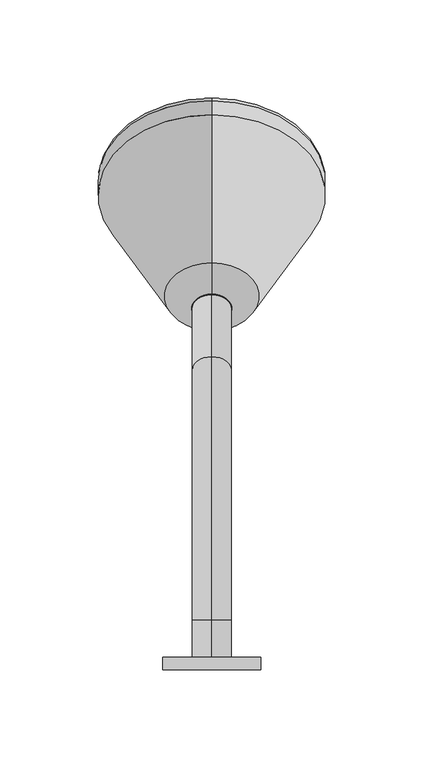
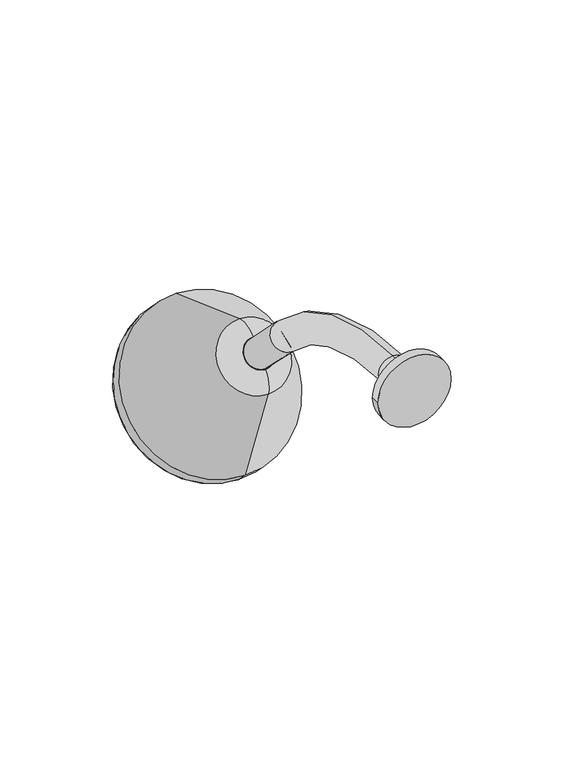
"""IFC4 building model written with IfcOpenShell, lengths in millimetres: flow terminal geometry, Regadera : Accesorios_baño."""

from ifc_helpers import new_model, si_unit, point, frame, frame_2d, origin, place, context, project, spatial, polyline, circle_curve, ellipse_curve, trimmed, segment, composite_curve, outline, extrude, source, transform, mapped, element, save
from ifc_brep_helpers import plane_surface, cylinder_surface, revolved_surface, advanced_brep


def flow_terminal_52aebef2(model_context):
    return source(origin(), model_context, "Body", "SolidModel", [
        extrude(outline(composite_curve([segment(trimmed(circle_curve(frame_2d((1900.0, 125.0)), 25.0), [point((1900.0, 100.0))], [point((1900.0, 150.0))], False, "CARTESIAN"), True, "CONTINUOUS"), segment(trimmed(circle_curve(frame_2d((1900.0, 125.0)), 25.0), [point((1900.0, 150.0))], [point((1900.0, 100.0))], False, "CARTESIAN"), True, "CONTINUOUS")], self_intersect=False)), frame((0.0, 10.0, 0.0), z_axis=(0.0, 1.0, 0.0), x_axis=(0.0, 0.0, 1.0)), (0.0, 0.0, 1.0), 6.4821489),
        advanced_brep(
        [(125.0, 217.6624735, 1826.3331882), (125.0, 183.6668118, 1792.3375265), (125.0, 187.1555994, 1808.0744304), (125.0, 201.9255696, 1822.8444006), (125.0, 293.255056, 1798.8197382), (125.0, 211.1802618, 1716.744944), (125.0, 300.3261238, 1791.7486704), (125.0, 218.2513296, 1709.6738762), (125.0, 300.3261238, 1784.6776026), (125.0, 225.3223974, 1709.6738762), (125.0, 298.6229509, 1782.9744296), (125.0, 227.0255704, 1711.3770491), (125.0, 297.2087373, 1784.3886432), (125.0, 225.6113568, 1712.7912627), (125.0, 261.4100471, 1748.5899529), (125.0, 194.5405845, 1815.4594155)],
        [
            (0, 1, circle_curve(frame((125.0, 200.6646427, 1809.3353573), z_axis=(0.0, -0.7071067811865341, 0.707106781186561), x_axis=(0.0, -0.707106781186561, -0.7071067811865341)), 24.0385629)),
            (1, 2, circle_curve(frame((125.0, 197.7622012, 1797.4678286), z_axis=(-1.0000000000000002, 0.0, 0.0), x_axis=(0.0, 1.0000000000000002, 0.0)), 15.0)),
            (2, 3, circle_curve(frame((125.0, 194.5405845, 1815.4594155), z_axis=(0.0, 0.7071067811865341, -0.707106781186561), x_axis=(0.0, -0.707106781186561, -0.7071067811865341)), 10.4439461)),
            (3, 0, circle_curve(frame((125.0, 212.5321714, 1812.2377988), z_axis=(-1.0000000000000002, 0.0, 0.0), x_axis=(0.0, 0.0, -1.0000000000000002)), 15.0)),
            (1, 0, circle_curve(frame((125.0, 200.6646427, 1809.3353573), z_axis=(0.0, -0.7071067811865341, 0.707106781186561), x_axis=(0.0, -0.707106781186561, -0.7071067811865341)), 24.0385629)),
            (3, 2, circle_curve(frame((125.0, 194.5405845, 1815.4594155), z_axis=(0.0, 0.7071067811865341, -0.707106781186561), x_axis=(0.0, -0.707106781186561, -0.7071067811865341)), 10.4439461)),
            (4, 5, circle_curve(frame((125.0, 252.2176589, 1757.7823411), z_axis=(0.0, -0.7071067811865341, 0.707106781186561), x_axis=(0.0, -0.707106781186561, -0.7071067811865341)), 58.0356436)),
            (5, 1),
            (0, 4),
            (5, 4, circle_curve(frame((125.0, 252.2176589, 1757.7823411), z_axis=(0.0, -0.7071067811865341, 0.707106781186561), x_axis=(0.0, -0.707106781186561, -0.7071067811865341)), 58.0356436)),
            (6, 7, circle_curve(frame((125.0, 259.2887267, 1750.7112733), z_axis=(0.0, -0.7071067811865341, 0.707106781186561), x_axis=(0.0, -0.707106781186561, -0.7071067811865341)), 58.0356436)),
            (7, 5),
            (4, 6),
            (7, 6, circle_curve(frame((125.0, 259.2887267, 1750.7112733), z_axis=(0.0, -0.7071067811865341, 0.707106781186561), x_axis=(0.0, -0.707106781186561, -0.7071067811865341)), 58.0356436)),
            (8, 9, circle_curve(frame((125.0, 262.8242606, 1747.1757394), z_axis=(0.0, -0.7071067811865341, 0.707106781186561), x_axis=(0.0, -0.707106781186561, -0.7071067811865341)), 53.0356436)),
            (9, 7, circle_curve(frame((125.0, 221.7868635, 1713.2094101), z_axis=(-1.0000000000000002, 0.0, 0.0), x_axis=(0.0, 1.0000000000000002, 0.0)), 5.0)),
            (6, 8, circle_curve(frame((125.0, 296.7905899, 1788.2131365), z_axis=(-1.0000000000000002, 0.0, 0.0), x_axis=(0.0, 0.0, -1.0000000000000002)), 5.0)),
            (9, 8, circle_curve(frame((125.0, 262.8242606, 1747.1757394), z_axis=(0.0, -0.7071067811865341, 0.707106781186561), x_axis=(0.0, -0.707106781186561, -0.7071067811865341)), 53.0356436)),
            (10, 11, circle_curve(frame((125.0, 262.8242606, 1747.1757394), z_axis=(0.0, -0.7071067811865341, 0.707106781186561), x_axis=(0.0, -0.707106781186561, -0.7071067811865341)), 50.6269933)),
            (11, 9),
            (8, 10),
            (11, 10, circle_curve(frame((125.0, 262.8242606, 1747.1757394), z_axis=(0.0, -0.7071067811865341, 0.707106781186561), x_axis=(0.0, -0.707106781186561, -0.7071067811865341)), 50.6269933)),
            (12, 13, circle_curve(frame((125.0, 261.4100471, 1748.5899529), z_axis=(0.0, -0.7071067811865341, 0.707106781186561), x_axis=(0.0, -0.707106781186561, -0.7071067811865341)), 50.6269933)),
            (13, 11),
            (10, 12),
            (13, 12, circle_curve(frame((125.0, 261.4100471, 1748.5899529), z_axis=(0.0, -0.7071067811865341, 0.707106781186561), x_axis=(0.0, -0.707106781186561, -0.7071067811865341)), 50.6269933)),
            (14, 13),
            (12, 14),
            (2, 15),
            (15, 3),
        ],
        [
            revolved_surface(trimmed(ellipse_curve(frame((125.0, 197.7622012, 1797.4678286), z_axis=(1.0000000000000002, 0.0, 0.0), x_axis=(0.0, 1.0000000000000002, 0.0)), 15.0, 15.0), [point((125.0, 187.1555994, 1808.0744304))], [point((125.0, 183.6668118, 1792.3375265))], True, "CARTESIAN"), (125.0, 194.5405845, 1815.4594155), (0.0, 0.7071067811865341, -0.707106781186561)),
            revolved_surface(polyline([(125.0, 183.6668118, 1792.3375265), (125.0, 211.1802618, 1716.744944)]), (125.0, 194.5405845, 1815.4594155), (0.0, 0.7071067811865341, -0.707106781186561)),
            cylinder_surface(frame((125.0, 194.5405845, 1815.4594155), z_axis=(0.0, 0.7071067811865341, -0.707106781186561), x_axis=(0.0, -0.707106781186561, -0.7071067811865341)), 58.0356436),
            revolved_surface(trimmed(ellipse_curve(frame((125.0, 221.7868635, 1713.2094101), z_axis=(1.0000000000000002, 0.0, 0.0), x_axis=(0.0, 1.0000000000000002, 0.0)), 5.0, 5.0), [point((125.0, 218.2513296, 1709.6738762))], [point((125.0, 225.3223974, 1709.6738762))], True, "CARTESIAN"), (125.0, 194.5405845, 1815.4594155), (0.0, 0.7071067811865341, -0.707106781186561)),
            plane_surface(frame((125.0, 262.8242606, 1747.1757394), z_axis=(0.0, 0.7071067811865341, -0.707106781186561), x_axis=(0.0, -0.707106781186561, -0.7071067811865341))),
            revolved_surface(polyline([(125.0, 227.02557037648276, 1711.3770490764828), (125.0, 225.61135677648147, 1712.7912626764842)]), (125.0, 194.5405845, 1815.4594155), (0.0, 0.7071067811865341, -0.707106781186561)),
            plane_surface(frame((125.0, 261.4100471, 1748.5899529), z_axis=(0.0, 0.7071067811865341, -0.707106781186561), x_axis=(0.0, -0.707106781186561, -0.7071067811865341))),
            plane_surface(frame((125.0, 194.5405845, 1815.4594155), z_axis=(0.0, -0.7071067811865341, 0.707106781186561), x_axis=(0.0, -0.707106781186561, -0.7071067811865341))),
        ],
        [
            (0, [[1, 2, 3, 4]]),
            (0, [[5, -4, 6, -2]]),
            (1, [[7, 8, -1, 9]]),
            (1, [[10, -9, -5, -8]]),
            (2, [[11, 12, -7, 13]]),
            (2, [[14, -13, -10, -12]]),
            (3, [[15, 16, -11, 17]]),
            (3, [[18, -17, -14, -16]]),
            (4, [[19, 20, -15, 21]]),
            (4, [[22, -21, -18, -20]]),
            (5, [[23, 24, -19, 25]]),
            (5, [[26, -25, -22, -24]]),
            (6, [[27, -23, 28]]),
            (6, [[-28, -26, -27]]),
            (7, [[-3, 29, 30]]),
            (7, [[-6, -30, -29]]),
        ],
    ),
        advanced_brep(
        [(125.0, 16.4821489, 1890.0), (125.0, 16.4821489, 1910.0), (125.0, 35.4415588, 1890.0), (125.0, 35.4415588, 1910.0), (125.0, 169.7918472, 1854.3502884), (125.0, 155.6497116, 1840.2081528), (125.0, 187.4695167, 1808.3883476), (125.0, 201.6116524, 1822.5304833)],
        [
            (0, 1, circle_curve(frame((125.0, 16.4821489, 1900.0), z_axis=(0.0, -1.0, 0.0), x_axis=(0.0, 0.0, 1.0)), 10.0)),
            (1, 0, circle_curve(frame((125.0, 16.4821489, 1900.0), z_axis=(0.0, -1.0, 0.0), x_axis=(0.0, 0.0, 1.0)), 10.0)),
            (0, 2),
            (2, 3, circle_curve(frame((125.0, 35.4415588, 1900.0), z_axis=(0.0, -1.0, 0.0), x_axis=(0.0, 0.0, 1.0)), 10.0)),
            (3, 1),
            (3, 2, circle_curve(frame((125.0, 35.4415588, 1900.0), z_axis=(0.0, -1.0, 0.0), x_axis=(0.0, 0.0, 1.0)), 10.0)),
            (4, 3, circle_curve(frame((125.0, 35.4415588, 1720.0), z_axis=(1.0, 0.0, 0.0), x_axis=(0.0, 0.0, 1.0)), 190.0)),
            (2, 5, circle_curve(frame((125.0, 35.4415588, 1720.0), z_axis=(-1.0, 0.0, 0.0), x_axis=(0.0, 0.0, 1.0)), 170.0)),
            (5, 4, circle_curve(frame((125.0, 162.7207794, 1847.2792206), z_axis=(0.0, -0.7071067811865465, 0.7071067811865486), x_axis=(0.0, 0.7071067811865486, 0.7071067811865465)), 10.0)),
            (4, 5, circle_curve(frame((125.0, 162.7207794, 1847.2792206), z_axis=(0.0, -0.707106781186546, 0.7071067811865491), x_axis=(0.0, 0.7071067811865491, 0.707106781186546)), 10.0)),
            (6, 7, circle_curve(frame((125.0, 194.5405845, 1815.4594155), z_axis=(0.0, 0.7071067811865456, -0.7071067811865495), x_axis=(0.0, 0.7071067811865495, 0.7071067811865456)), 10.0)),
            (7, 6, circle_curve(frame((125.0, 194.5405845, 1815.4594155), z_axis=(0.0, 0.7071067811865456, -0.7071067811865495), x_axis=(0.0, 0.7071067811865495, 0.7071067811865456)), 10.0)),
            (5, 6),
            (7, 4),
        ],
        [
            plane_surface(frame((125.0, 16.4821489, 1900.0), z_axis=(0.0, -1.0, 0.0), x_axis=(1.0, 0.0, 0.0))),
            cylinder_surface(frame((125.0, 16.4821489, 1900.0), z_axis=(0.0, -1.0, 0.0), x_axis=(0.0, 0.0, 1.0)), 10.0),
            revolved_surface(trimmed(ellipse_curve(frame((125.0, 35.4415588, 1900.0), z_axis=(0.0, -1.0, 0.0), x_axis=(0.0, 0.0, 1.0)), 10.0, 10.0), [point((125.0, 35.4415588, 1890.0))], [point((125.0, 35.4415588, 1910.0))], True, "CARTESIAN"), (125.0, 35.4415588, 1720.0), (-1.0, 0.0, 0.0)),
            revolved_surface(trimmed(ellipse_curve(frame((125.0, 35.4415588, 1900.0), z_axis=(0.0, -1.0, 0.0), x_axis=(0.0, 0.0, 1.0)), 10.0, 10.0), [point((125.0, 35.4415588, 1910.0))], [point((125.0, 35.4415588, 1890.0))], True, "CARTESIAN"), (125.0, 35.4415588, 1720.0), (-1.0, 0.0, 0.0)),
            plane_surface(frame((125.0, 194.5405845, 1815.4594155), z_axis=(0.0, 0.7071067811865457, -0.7071067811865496), x_axis=(1.0, 0.0, 0.0))),
            cylinder_surface(frame((125.0, 162.7207794, 1847.2792206), z_axis=(0.0, -0.7071067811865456, 0.7071067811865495), x_axis=(0.0, 0.7071067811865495, 0.7071067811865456)), 10.0),
        ],
        [
            (0, [[1, 2]]),
            (1, [[-1, 3, 4, 5]]),
            (1, [[-2, -5, 6, -3]]),
            (2, [[7, -4, 8, 9]]),
            (3, [[-8, -6, -7, 10]]),
            (4, [[11, 12]]),
            (5, [[-9, 13, -12, 14]]),
            (5, [[-10, -14, -11, -13]]),
        ],
    ),
    ])


if __name__ == "__main__":
    model = new_model("IFC4")
    model_context = context("Model", 3, world=origin())
    ifc_project = project(units=[si_unit("LENGTHUNIT", "METRE", prefix="MILLI")], contexts=[model_context])
    site = spatial("IfcSite", under=ifc_project)
    building = spatial("IfcBuilding", under=site)
    placement = place(None, origin())
    flow_terminal_shape = flow_terminal_52aebef2(model_context)
    element("IfcFlowTerminal", 1, ObjectType="Regadera : Accesorios_baño", at=placement, inside=building, context=model_context, shape_type="MappedRepresentation", body=[
        mapped(flow_terminal_shape, transform((0.0, 0.0, 0.0), x_axis=(1.0, 0.0, 0.0), y_axis=(0.0, 1.0, 0.0), z_axis=(0.0, 0.0, 1.0))),
    ])
    save(model, "model.ifc")
